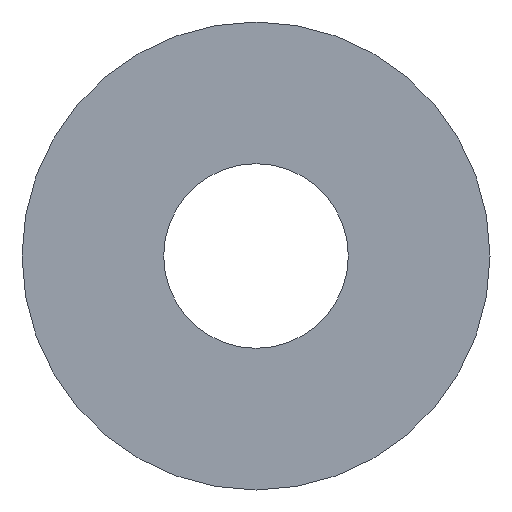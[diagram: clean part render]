
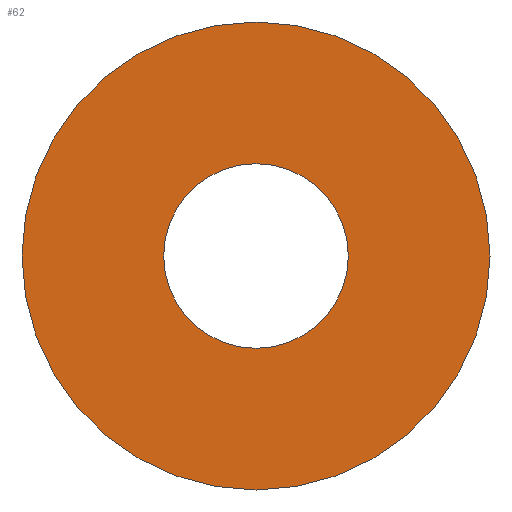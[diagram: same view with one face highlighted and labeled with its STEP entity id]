
A CAD part, front view. The second image highlights one B-rep face of the part: STEP entity #62.
In plain terms, the highlighted planar face has unit normal (0, -1, 0).
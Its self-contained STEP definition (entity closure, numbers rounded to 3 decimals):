
#20=PLANE('',#83);
#26=ORIENTED_EDGE('',*,*,#30,.T.);
#27=ORIENTED_EDGE('',*,*,#32,.F.);
#30=EDGE_CURVE('',#34,#34,#38,.T.);
#32=EDGE_CURVE('',#36,#36,#40,.T.);
#34=VERTEX_POINT('',#106);
#36=VERTEX_POINT('',#111);
#38=CIRCLE('',#78,14.);
#40=CIRCLE('',#81,35.5);
#46=EDGE_LOOP('',(#26));
#47=EDGE_LOOP('',(#27));
#54=FACE_BOUND('',#46,.T.);
#55=FACE_BOUND('',#47,.T.);
#62=ADVANCED_FACE('',(#54,#55),#20,.F.);
#78=AXIS2_PLACEMENT_3D('',#105,#89,#90);
#81=AXIS2_PLACEMENT_3D('',#110,#95,#96);
#83=AXIS2_PLACEMENT_3D('',#114,#99,#100);
#89=DIRECTION('',(0.,1.,0.));
#90=DIRECTION('',(1.,0.,0.));
#95=DIRECTION('',(0.,1.,0.));
#96=DIRECTION('',(1.,0.,0.));
#99=DIRECTION('',(0.,1.,0.));
#100=DIRECTION('',(0.,0.,1.));
#105=CARTESIAN_POINT('',(0.,-1.5,0.));
#106=CARTESIAN_POINT('',(14.,-1.5,0.));
#110=CARTESIAN_POINT('',(0.,-1.5,0.));
#111=CARTESIAN_POINT('',(35.5,-1.5,0.));
#114=CARTESIAN_POINT('',(0.,-1.5,0.));
